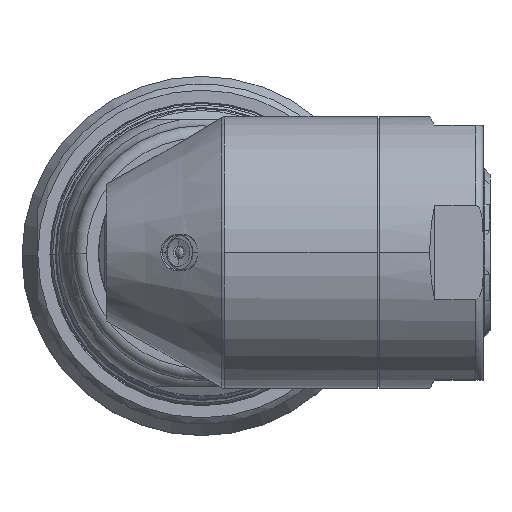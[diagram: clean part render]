
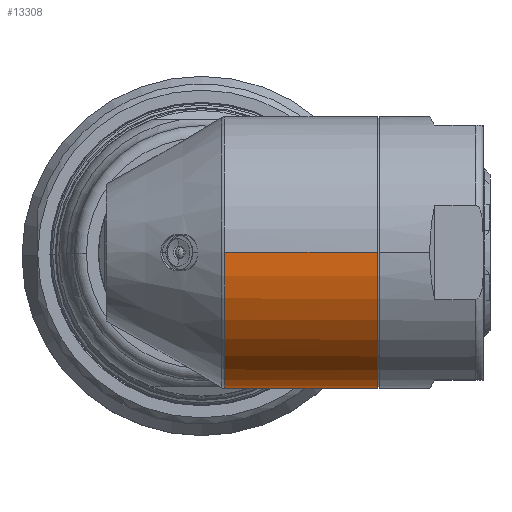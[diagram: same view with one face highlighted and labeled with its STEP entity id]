
A CAD part, top view. The second image highlights one B-rep face of the part: STEP entity #13308.
In plain terms, the highlighted cylindrical face has radius 17.78 mm (diameter 35.56 mm), a partial arc.
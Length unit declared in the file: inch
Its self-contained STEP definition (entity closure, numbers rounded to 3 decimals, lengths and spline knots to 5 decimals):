
#760 = B_SPLINE_CURVE_WITH_KNOTS ( 'NONE', 3,
 ( #64123, #14280, #29752, #64781, #34869, #4159, #39938, #9313, #44885, #14492, #49907, #19654, #54887, #24810, #59934, #29982, #64990, #35063, #4368, #40162, #9514, #45109, #14710, #50120, #19871, #55111 ),
 .UNSPECIFIED., .F., .F.,
 ( 4, 2, 2, 2, 2, 2, 2, 2, 2, 2, 2, 2, 4 ),
 ( 0.00008, 0.00139, 0.00271, 0.00534, 0.00666, 0.00798, 0.01061, 0.01324, 0.01587, 0.01719, 0.0185, 0.01982, 0.02114 ),
 .UNSPECIFIED. ) ;
#3232 = ORIENTED_EDGE ( 'NONE', *, *, #23446, .F. ) ;
#3636 = CARTESIAN_POINT ( 'NONE',  ( -2.88516, -0.53565, -0.45066 ) ) ;
#3885 = CARTESIAN_POINT ( 'NONE',  ( -2.88701, -0.53336, -0.45335 ) ) ;
#4159 = CARTESIAN_POINT ( 'NONE',  ( -2.76093, -0.49771, -0.49247 ) ) ;
#4368 = CARTESIAN_POINT ( 'NONE',  ( -2.43801, -0.16626, -0.68016 ) ) ;
#5299 = VECTOR ( 'NONE', #47645, 39.37008 ) ;
#9313 = CARTESIAN_POINT ( 'NONE',  ( -2.69069, -0.46299, -0.52511 ) ) ;
#9514 = CARTESIAN_POINT ( 'NONE',  ( -2.42385, -0.11826, -0.69014 ) ) ;
#11282 = AXIS2_PLACEMENT_3D ( 'NONE', #55784, #37938, #63431 ) ;
#13308 = ADVANCED_FACE ( 'NONE', ( #25741 ), #17990, .T. ) ;
#13766 = CARTESIAN_POINT ( 'NONE',  ( -2.88196, -0.54546, -0.43873 ) ) ;
#14047 = CARTESIAN_POINT ( 'NONE',  ( -3.6, 0., 0.7 ) ) ;
#14280 = CARTESIAN_POINT ( 'NONE',  ( -2.87035, -0.53037, -0.45687 ) ) ;
#14492 = CARTESIAN_POINT ( 'NONE',  ( -2.65075, -0.43824, -0.54596 ) ) ;
#14710 = CARTESIAN_POINT ( 'NONE',  ( -2.41442, -0.0686, -0.69684 ) ) ;
#14833 = CARTESIAN_POINT ( 'NONE',  ( -2.88196, -0.54793, -0.43562 ) ) ;
#16409 = CARTESIAN_POINT ( 'NONE',  ( -2.095, 0., 0. ) ) ;
#17113 = ORIENTED_EDGE ( 'NONE', *, *, #35872, .T. ) ;
#17990 = CYLINDRICAL_SURFACE ( 'NONE', #11282, 0.7 ) ;
#19240 = LINE ( 'NONE', #14047, #44577 ) ;
#19654 = CARTESIAN_POINT ( 'NONE',  ( -2.60058, -0.40105, -0.5742 ) ) ;
#19871 = CARTESIAN_POINT ( 'NONE',  ( -2.41, -0.01719, -0.7 ) ) ;
#21031 = CARTESIAN_POINT ( 'NONE',  ( -2.88196, 0., 0. ) ) ;
#21545 = DIRECTION ( 'NONE',  ( 0., 0., 1. ) ) ;
#23233 = CIRCLE ( 'NONE', #36063, 0.7 ) ;
#23446 = EDGE_CURVE ( 'NONE', #33639, #56411, #19240, .T. ) ;
#24768 = CARTESIAN_POINT ( 'NONE',  ( -2.095, 0., -0.7 ) ) ;
#24810 = CARTESIAN_POINT ( 'NONE',  ( -2.53414, -0.33483, -0.6153 ) ) ;
#25741 = FACE_OUTER_BOUND ( 'NONE', #64961, .T. ) ;
#26226 = DIRECTION ( 'NONE',  ( 0., 0., -1. ) ) ;
#27617 = AXIS2_PLACEMENT_3D ( 'NONE', #16409, #51772, #21545 ) ;
#27790 = EDGE_CURVE ( 'NONE', #57495, #48992, #44380, .T. ) ;
#28256 = ORIENTED_EDGE ( 'NONE', *, *, #35468, .T. ) ;
#29752 = CARTESIAN_POINT ( 'NONE',  ( -2.85393, -0.52673, -0.46109 ) ) ;
#29982 = CARTESIAN_POINT ( 'NONE',  ( -2.47869, -0.2564, -0.65201 ) ) ;
#31109 = CARTESIAN_POINT ( 'NONE',  ( -2.095, 0., 0.7 ) ) ;
#33639 = VERTEX_POINT ( 'NONE', #49544 ) ;
#34356 = CARTESIAN_POINT ( 'NONE',  ( -2.88389, -0.53809, -0.44774 ) ) ;
#34869 = CARTESIAN_POINT ( 'NONE',  ( -2.80642, -0.51356, -0.47573 ) ) ;
#35063 = CARTESIAN_POINT ( 'NONE',  ( -2.44377, -0.18196, -0.67612 ) ) ;
#35468 = EDGE_CURVE ( 'NONE', #53279, #57495, #760, .T. ) ;
#35872 = EDGE_CURVE ( 'NONE', #58180, #53279, #36044, .T. ) ;
#36044 = B_SPLINE_CURVE_WITH_KNOTS ( 'NONE', 3,
 ( #49191, #13766, #64274, #34356, #3636, #39453 ),
 .UNSPECIFIED., .F., .F.,
 ( 4, 2, 4 ),
 ( 0., 0.0003, 0.0006 ),
 .UNSPECIFIED. ) ;
#36063 = AXIS2_PLACEMENT_3D ( 'NONE', #21031, #56298, #26226 ) ;
#37938 = DIRECTION ( 'NONE',  ( 1., 0., 0. ) ) ;
#38082 = ORIENTED_EDGE ( 'NONE', *, *, #27790, .T. ) ;
#38110 = CARTESIAN_POINT ( 'NONE',  ( -3.6, 0., -0.7 ) ) ;
#39453 = CARTESIAN_POINT ( 'NONE',  ( -2.88701, -0.53336, -0.45335 ) ) ;
#39938 = CARTESIAN_POINT ( 'NONE',  ( -2.73211, -0.48507, -0.50508 ) ) ;
#40141 = CARTESIAN_POINT ( 'NONE',  ( -2.41, 0., -0.7 ) ) ;
#40162 = CARTESIAN_POINT ( 'NONE',  ( -2.42806, -0.13444, -0.68716 ) ) ;
#44380 = LINE ( 'NONE', #38110, #5299 ) ;
#44577 = VECTOR ( 'NONE', #59507, 39.37008 ) ;
#44885 = CARTESIAN_POINT ( 'NONE',  ( -2.67718, -0.4551, -0.53198 ) ) ;
#45109 = CARTESIAN_POINT ( 'NONE',  ( -2.41704, -0.08534, -0.69498 ) ) ;
#45916 = EDGE_CURVE ( 'NONE', #33639, #58180, #23233, .T. ) ;
#46803 = EDGE_CURVE ( 'NONE', #48992, #56411, #47991, .T. ) ;
#47645 = DIRECTION ( 'NONE',  ( 1., 0., 0. ) ) ;
#47991 = CIRCLE ( 'NONE', #27617, 0.7 ) ;
#48992 = VERTEX_POINT ( 'NONE', #24768 ) ;
#49191 = CARTESIAN_POINT ( 'NONE',  ( -2.88196, -0.54793, -0.43562 ) ) ;
#49544 = CARTESIAN_POINT ( 'NONE',  ( -2.88196, 0., 0.7 ) ) ;
#49907 = CARTESIAN_POINT ( 'NONE',  ( -2.63787, -0.42927, -0.55305 ) ) ;
#50120 = CARTESIAN_POINT ( 'NONE',  ( -2.4109, -0.03452, -0.69936 ) ) ;
#51772 = DIRECTION ( 'NONE',  ( -1., 0., 0. ) ) ;
#53279 = VERTEX_POINT ( 'NONE', #3885 ) ;
#54887 = CARTESIAN_POINT ( 'NONE',  ( -2.57736, -0.38038, -0.58823 ) ) ;
#55111 = CARTESIAN_POINT ( 'NONE',  ( -2.41, 0., -0.7 ) ) ;
#55784 = CARTESIAN_POINT ( 'NONE',  ( -3.6, 0., 0. ) ) ;
#56298 = DIRECTION ( 'NONE',  ( 1., 0., 0. ) ) ;
#56411 = VERTEX_POINT ( 'NONE', #31109 ) ;
#57495 = VERTEX_POINT ( 'NONE', #40141 ) ;
#58180 = VERTEX_POINT ( 'NONE', #14833 ) ;
#59507 = DIRECTION ( 'NONE',  ( 1., 0., 0. ) ) ;
#59934 = CARTESIAN_POINT ( 'NONE',  ( -2.51407, -0.30979, -0.6284 ) ) ;
#61865 = ORIENTED_EDGE ( 'NONE', *, *, #45916, .T. ) ;
#63304 = ORIENTED_EDGE ( 'NONE', *, *, #46803, .T. ) ;
#63431 = DIRECTION ( 'NONE',  ( 0., 0., -1. ) ) ;
#64123 = CARTESIAN_POINT ( 'NONE',  ( -2.88701, -0.53336, -0.45335 ) ) ;
#64274 = CARTESIAN_POINT ( 'NONE',  ( -2.8823, -0.543, -0.44178 ) ) ;
#64781 = CARTESIAN_POINT ( 'NONE',  ( -2.82196, -0.51831, -0.47052 ) ) ;
#64961 = EDGE_LOOP ( 'NONE', ( #3232, #61865, #17113, #28256, #38082, #63304 ) ) ;
#64990 = CARTESIAN_POINT ( 'NONE',  ( -2.46321, -0.22792, -0.66263 ) ) ;
